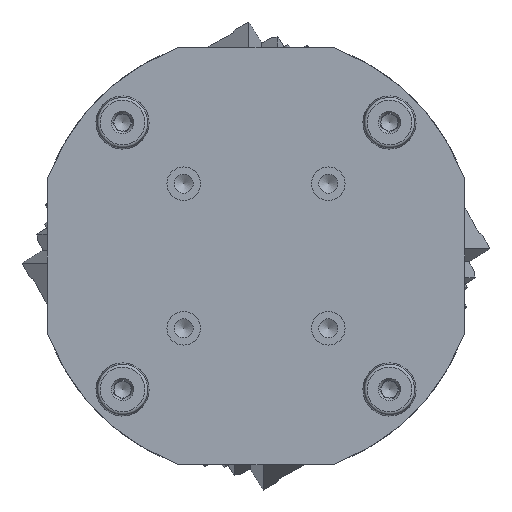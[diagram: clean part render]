
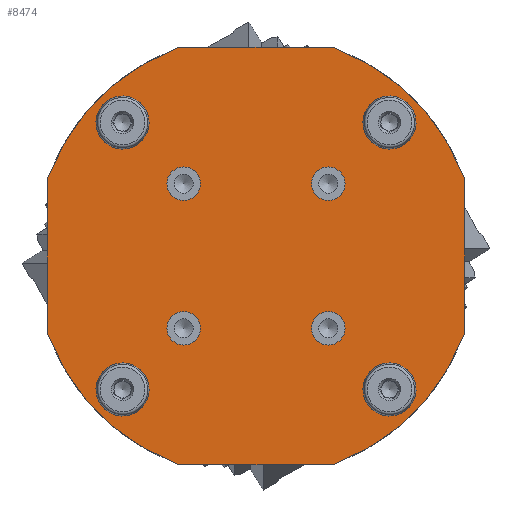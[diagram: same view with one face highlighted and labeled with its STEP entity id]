
A CAD part, front view. The second image highlights one B-rep face of the part: STEP entity #8474.
In plain terms, the highlighted planar face has unit normal (0, -1, 0).
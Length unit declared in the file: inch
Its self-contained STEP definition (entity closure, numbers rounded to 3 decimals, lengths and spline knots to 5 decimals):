
#84 = DIRECTION ( 'NONE',  ( 0., 0., -1. ) ) ;
#113 = ORIENTED_EDGE ( 'NONE', *, *, #3409, .F. ) ;
#220 = ORIENTED_EDGE ( 'NONE', *, *, #8895, .F. ) ;
#290 = EDGE_LOOP ( 'NONE', ( #220 ) ) ;
#292 = VERTEX_POINT ( 'NONE', #3313 ) ;
#365 = EDGE_CURVE ( 'NONE', #5806, #5806, #3708, .T. ) ;
#492 = CARTESIAN_POINT ( 'NONE',  ( 1.02362, -0.27559, 1.02362 ) ) ;
#493 = VERTEX_POINT ( 'NONE', #7994 ) ;
#543 = DIRECTION ( 'NONE',  ( 0., 0., 1. ) ) ;
#567 = CARTESIAN_POINT ( 'NONE',  ( 0., -0.27559, 0. ) ) ;
#601 = EDGE_CURVE ( 'NONE', #8008, #4800, #9264, .T. ) ;
#622 = CARTESIAN_POINT ( 'NONE',  ( -2.95276, -0.27559, -1.09602 ) ) ;
#698 = EDGE_LOOP ( 'NONE', ( #8963 ) ) ;
#854 = AXIS2_PLACEMENT_3D ( 'NONE', #4565, #2354, #5423 ) ;
#863 = CIRCLE ( 'NONE', #8320, 0.31535 ) ;
#915 = VECTOR ( 'NONE', #4538, 39.37008 ) ;
#950 = EDGE_CURVE ( 'NONE', #2843, #6189, #6553, .T. ) ;
#1040 = DIRECTION ( 'NONE',  ( 0., 0., -1. ) ) ;
#1065 = CARTESIAN_POINT ( 'NONE',  ( 2.95276, -0.27559, 1.09602 ) ) ;
#1076 = VERTEX_POINT ( 'NONE', #1690 ) ;
#1081 = ORIENTED_EDGE ( 'NONE', *, *, #3800, .T. ) ;
#1163 = EDGE_LOOP ( 'NONE', ( #7407, #3978, #4141, #1081, #5875, #3779, #4271, #6477 ) ) ;
#1234 = VERTEX_POINT ( 'NONE', #9607 ) ;
#1257 = AXIS2_PLACEMENT_3D ( 'NONE', #567, #5964, #5815 ) ;
#1337 = AXIS2_PLACEMENT_3D ( 'NONE', #2628, #9702, #3513 ) ;
#1513 = EDGE_LOOP ( 'NONE', ( #2097 ) ) ;
#1540 = EDGE_CURVE ( 'NONE', #4559, #9345, #7638, .T. ) ;
#1548 = CARTESIAN_POINT ( 'NONE',  ( 0., -0.27559, 0. ) ) ;
#1605 = VERTEX_POINT ( 'NONE', #7579 ) ;
#1686 = DIRECTION ( 'NONE',  ( 0., -1., 0. ) ) ;
#1690 = CARTESIAN_POINT ( 'NONE',  ( 1.09602, -0.27559, -2.95276 ) ) ;
#1797 = VECTOR ( 'NONE', #2723, 39.37008 ) ;
#1841 = VECTOR ( 'NONE', #5681, 39.37008 ) ;
#1870 = VERTEX_POINT ( 'NONE', #2215 ) ;
#2043 = DIRECTION ( 'NONE',  ( 0., 0., 1. ) ) ;
#2052 = FACE_BOUND ( 'NONE', #7057, .T. ) ;
#2097 = ORIENTED_EDGE ( 'NONE', *, *, #8994, .F. ) ;
#2215 = CARTESIAN_POINT ( 'NONE',  ( -2.95276, -0.27559, 1.09602 ) ) ;
#2354 = DIRECTION ( 'NONE',  ( 0., -1., 0. ) ) ;
#2455 = ORIENTED_EDGE ( 'NONE', *, *, #6288, .F. ) ;
#2541 = EDGE_CURVE ( 'NONE', #9345, #1870, #5134, .T. ) ;
#2589 = AXIS2_PLACEMENT_3D ( 'NONE', #8494, #1686, #4699 ) ;
#2628 = CARTESIAN_POINT ( 'NONE',  ( 1.02362, -0.27559, -1.02362 ) ) ;
#2723 = DIRECTION ( 'NONE',  ( 0., 0., -1. ) ) ;
#2795 = FACE_BOUND ( 'NONE', #3585, .T. ) ;
#2833 = DIRECTION ( 'NONE',  ( 0., -1., 0. ) ) ;
#2843 = VERTEX_POINT ( 'NONE', #8001 ) ;
#2844 = FACE_OUTER_BOUND ( 'NONE', #1163, .T. ) ;
#2845 = ORIENTED_EDGE ( 'NONE', *, *, #7368, .F. ) ;
#2902 = EDGE_CURVE ( 'NONE', #292, #292, #6912, .T. ) ;
#2914 = VERTEX_POINT ( 'NONE', #8711 ) ;
#3042 = DIRECTION ( 'NONE',  ( 0., -1., 0. ) ) ;
#3313 = CARTESIAN_POINT ( 'NONE',  ( -1.02362, -0.27559, -0.78707 ) ) ;
#3369 = CARTESIAN_POINT ( 'NONE',  ( 1.88976, -0.27559, -1.88976 ) ) ;
#3409 = EDGE_CURVE ( 'NONE', #1605, #1605, #7394, .T. ) ;
#3475 = EDGE_CURVE ( 'NONE', #6189, #4559, #6744, .T. ) ;
#3513 = DIRECTION ( 'NONE',  ( 0., 0., -1. ) ) ;
#3585 = EDGE_LOOP ( 'NONE', ( #2845 ) ) ;
#3626 = DIRECTION ( 'NONE',  ( 0., 0., 1. ) ) ;
#3708 = CIRCLE ( 'NONE', #4949, 0.31535 ) ;
#3779 = ORIENTED_EDGE ( 'NONE', *, *, #950, .T. ) ;
#3800 = EDGE_CURVE ( 'NONE', #4800, #1076, #6633, .T. ) ;
#3807 = DIRECTION ( 'NONE',  ( 0., 0., -1. ) ) ;
#3874 = CARTESIAN_POINT ( 'NONE',  ( 1.09602, -0.27559, 2.95276 ) ) ;
#3967 = EDGE_LOOP ( 'NONE', ( #113 ) ) ;
#3978 = ORIENTED_EDGE ( 'NONE', *, *, #9039, .T. ) ;
#4085 = DIRECTION ( 'NONE',  ( 0., 0., -1. ) ) ;
#4141 = ORIENTED_EDGE ( 'NONE', *, *, #601, .T. ) ;
#4271 = ORIENTED_EDGE ( 'NONE', *, *, #3475, .T. ) ;
#4289 = DIRECTION ( 'NONE',  ( 0., -1., 0. ) ) ;
#4299 = AXIS2_PLACEMENT_3D ( 'NONE', #8354, #4553, #7558 ) ;
#4538 = DIRECTION ( 'NONE',  ( -1., 0., 0. ) ) ;
#4553 = DIRECTION ( 'NONE',  ( 0., -1., 0. ) ) ;
#4559 = VERTEX_POINT ( 'NONE', #3874 ) ;
#4565 = CARTESIAN_POINT ( 'NONE',  ( 0., -0.27559, 0. ) ) ;
#4638 = AXIS2_PLACEMENT_3D ( 'NONE', #5715, #8016, #7230 ) ;
#4699 = DIRECTION ( 'NONE',  ( 0., 0., -1. ) ) ;
#4800 = VERTEX_POINT ( 'NONE', #6388 ) ;
#4949 = AXIS2_PLACEMENT_3D ( 'NONE', #5673, #4289, #5821 ) ;
#4991 = DIRECTION ( 'NONE',  ( 0., -1., 0. ) ) ;
#5048 = CIRCLE ( 'NONE', #1257, 3.14961 ) ;
#5090 = LINE ( 'NONE', #7989, #1797 ) ;
#5134 = CIRCLE ( 'NONE', #8642, 3.14961 ) ;
#5195 = CARTESIAN_POINT ( 'NONE',  ( 0., -0.27559, 0. ) ) ;
#5399 = VECTOR ( 'NONE', #2043, 39.37008 ) ;
#5423 = DIRECTION ( 'NONE',  ( 0., 0., -1. ) ) ;
#5490 = CARTESIAN_POINT ( 'NONE',  ( -1.02362, -0.27559, 0.78707 ) ) ;
#5673 = CARTESIAN_POINT ( 'NONE',  ( -1.88976, -0.27559, 1.88976 ) ) ;
#5681 = DIRECTION ( 'NONE',  ( 1., 0., 0. ) ) ;
#5693 = EDGE_CURVE ( 'NONE', #1076, #2843, #5048, .T. ) ;
#5715 = CARTESIAN_POINT ( 'NONE',  ( 0., -0.27559, 0. ) ) ;
#5806 = VERTEX_POINT ( 'NONE', #8704 ) ;
#5809 = FACE_BOUND ( 'NONE', #5861, .T. ) ;
#5815 = DIRECTION ( 'NONE',  ( 0., 0., -1. ) ) ;
#5821 = DIRECTION ( 'NONE',  ( 0., 0., -1. ) ) ;
#5861 = EDGE_LOOP ( 'NONE', ( #2455 ) ) ;
#5875 = ORIENTED_EDGE ( 'NONE', *, *, #5693, .T. ) ;
#5929 = AXIS2_PLACEMENT_3D ( 'NONE', #9664, #2833, #3626 ) ;
#5964 = DIRECTION ( 'NONE',  ( 0., -1., 0. ) ) ;
#6189 = VERTEX_POINT ( 'NONE', #1065 ) ;
#6206 = PLANE ( 'NONE',  #854 ) ;
#6288 = EDGE_CURVE ( 'NONE', #2914, #2914, #9215, .T. ) ;
#6311 = CARTESIAN_POINT ( 'NONE',  ( -1.88976, -0.27559, -1.88976 ) ) ;
#6330 = DIRECTION ( 'NONE',  ( 0., -1., 0. ) ) ;
#6387 = CARTESIAN_POINT ( 'NONE',  ( 1.88976, -0.27559, 1.57441 ) ) ;
#6388 = CARTESIAN_POINT ( 'NONE',  ( -1.09602, -0.27559, -2.95276 ) ) ;
#6389 = CIRCLE ( 'NONE', #1337, 0.23655 ) ;
#6477 = ORIENTED_EDGE ( 'NONE', *, *, #1540, .T. ) ;
#6529 = CARTESIAN_POINT ( 'NONE',  ( -1.09602, -0.27559, -2.95276 ) ) ;
#6553 = LINE ( 'NONE', #7410, #5399 ) ;
#6561 = FACE_BOUND ( 'NONE', #1513, .T. ) ;
#6609 = FACE_BOUND ( 'NONE', #698, .T. ) ;
#6633 = LINE ( 'NONE', #6529, #1841 ) ;
#6744 = CIRCLE ( 'NONE', #9631, 3.14961 ) ;
#6754 = ORIENTED_EDGE ( 'NONE', *, *, #8869, .F. ) ;
#6912 = CIRCLE ( 'NONE', #5929, 0.23655 ) ;
#7057 = EDGE_LOOP ( 'NONE', ( #6754 ) ) ;
#7230 = DIRECTION ( 'NONE',  ( 0., 0., -1. ) ) ;
#7368 = EDGE_CURVE ( 'NONE', #8668, #8668, #9733, .T. ) ;
#7394 = CIRCLE ( 'NONE', #9794, 0.23655 ) ;
#7407 = ORIENTED_EDGE ( 'NONE', *, *, #2541, .T. ) ;
#7410 = CARTESIAN_POINT ( 'NONE',  ( 2.95276, -0.27559, -1.09602 ) ) ;
#7558 = DIRECTION ( 'NONE',  ( 0., 0., -1. ) ) ;
#7579 = CARTESIAN_POINT ( 'NONE',  ( 1.02362, -0.27559, 1.26017 ) ) ;
#7638 = LINE ( 'NONE', #9142, #915 ) ;
#7918 = DIRECTION ( 'NONE',  ( 0., -1., 0. ) ) ;
#7987 = CIRCLE ( 'NONE', #2589, 0.31535 ) ;
#7989 = CARTESIAN_POINT ( 'NONE',  ( -2.95276, -0.27559, 1.09602 ) ) ;
#7994 = CARTESIAN_POINT ( 'NONE',  ( 1.02362, -0.27559, -1.26017 ) ) ;
#8001 = CARTESIAN_POINT ( 'NONE',  ( 2.95276, -0.27559, -1.09602 ) ) ;
#8008 = VERTEX_POINT ( 'NONE', #622 ) ;
#8016 = DIRECTION ( 'NONE',  ( 0., -1., 0. ) ) ;
#8111 = FACE_BOUND ( 'NONE', #8164, .T. ) ;
#8164 = EDGE_LOOP ( 'NONE', ( #8444 ) ) ;
#8320 = AXIS2_PLACEMENT_3D ( 'NONE', #3369, #6330, #1040 ) ;
#8354 = CARTESIAN_POINT ( 'NONE',  ( -1.02362, -0.27559, 1.02362 ) ) ;
#8438 = DIRECTION ( 'NONE',  ( 0., -1., 0. ) ) ;
#8444 = ORIENTED_EDGE ( 'NONE', *, *, #2902, .F. ) ;
#8474 = ADVANCED_FACE ( 'NONE', ( #8111, #6561, #9627, #2795, #5809, #8859, #2052, #6609, #2844 ), #6206, .T. ) ;
#8494 = CARTESIAN_POINT ( 'NONE',  ( 1.88976, -0.27559, 1.88976 ) ) ;
#8642 = AXIS2_PLACEMENT_3D ( 'NONE', #1548, #3042, #84 ) ;
#8668 = VERTEX_POINT ( 'NONE', #5490 ) ;
#8704 = CARTESIAN_POINT ( 'NONE',  ( -1.88976, -0.27559, 1.57441 ) ) ;
#8711 = CARTESIAN_POINT ( 'NONE',  ( -1.88976, -0.27559, -2.20511 ) ) ;
#8859 = FACE_BOUND ( 'NONE', #290, .T. ) ;
#8869 = EDGE_CURVE ( 'NONE', #9495, #9495, #7987, .T. ) ;
#8895 = EDGE_CURVE ( 'NONE', #1234, #1234, #863, .T. ) ;
#8963 = ORIENTED_EDGE ( 'NONE', *, *, #365, .F. ) ;
#8994 = EDGE_CURVE ( 'NONE', #493, #493, #6389, .T. ) ;
#9039 = EDGE_CURVE ( 'NONE', #1870, #8008, #5090, .T. ) ;
#9142 = CARTESIAN_POINT ( 'NONE',  ( 1.09602, -0.27559, 2.95276 ) ) ;
#9215 = CIRCLE ( 'NONE', #9703, 0.31535 ) ;
#9264 = CIRCLE ( 'NONE', #4638, 3.14961 ) ;
#9345 = VERTEX_POINT ( 'NONE', #9475 ) ;
#9475 = CARTESIAN_POINT ( 'NONE',  ( -1.09602, -0.27559, 2.95276 ) ) ;
#9495 = VERTEX_POINT ( 'NONE', #6387 ) ;
#9607 = CARTESIAN_POINT ( 'NONE',  ( 1.88976, -0.27559, -2.20511 ) ) ;
#9627 = FACE_BOUND ( 'NONE', #3967, .T. ) ;
#9631 = AXIS2_PLACEMENT_3D ( 'NONE', #5195, #8438, #3807 ) ;
#9664 = CARTESIAN_POINT ( 'NONE',  ( -1.02362, -0.27559, -1.02362 ) ) ;
#9702 = DIRECTION ( 'NONE',  ( 0., -1., 0. ) ) ;
#9703 = AXIS2_PLACEMENT_3D ( 'NONE', #6311, #7918, #4085 ) ;
#9733 = CIRCLE ( 'NONE', #4299, 0.23655 ) ;
#9794 = AXIS2_PLACEMENT_3D ( 'NONE', #492, #4991, #543 ) ;
